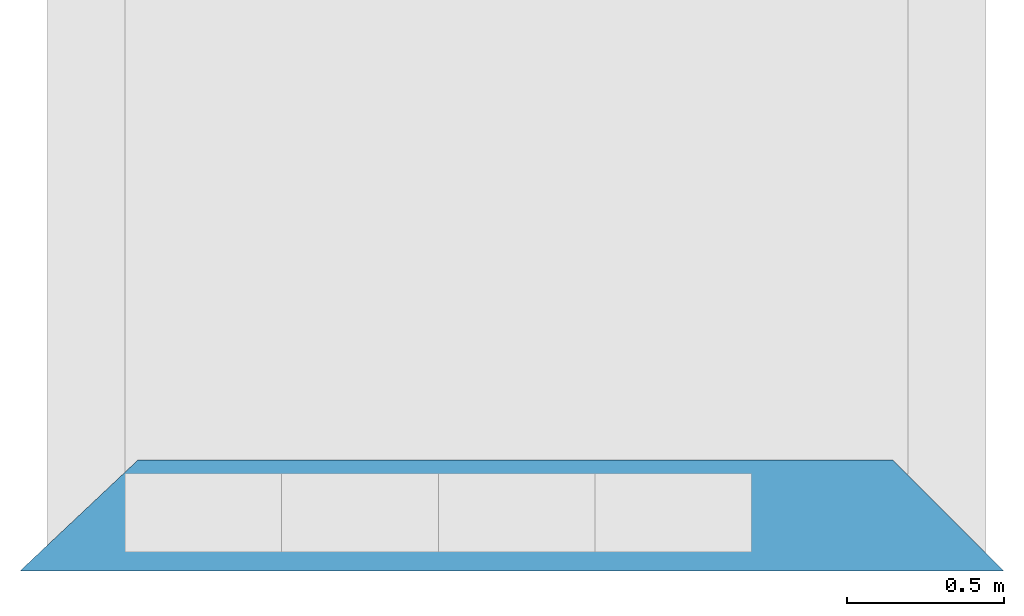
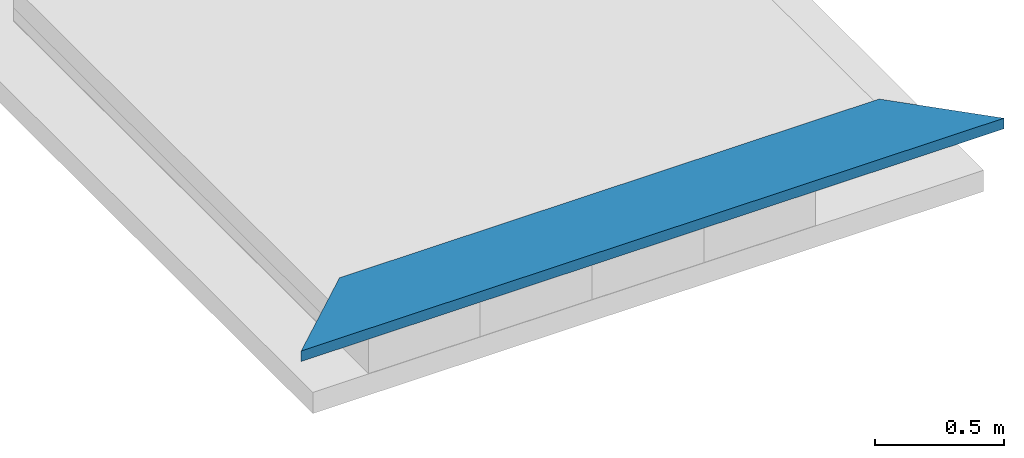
# One storey, part 3 of 3: 1 beam.
"""IFC4 building model written with IfcOpenShell, lengths in centimetres."""

import ifcopenshell
import ifcopenshell.guid

model = None  # the IFC model being written
_history = None  # IfcOwnerHistory: only IFC2X3 demands one
_inside = {}  # id of a spatial element -> (the spatial element, [elements in it])
_under = {}  # id of a project, library or spatial element -> (it, [spatial elements below it])
_declared = {}  # id of a project -> (the project, [libraries it declares])
_typed = {}  # id of a type object -> (the type object, [elements of that type])
_made_of = {}  # id of a material, layer set ... -> (it, [elements and type objects made of it])


def new_model(schema):
    """Start an empty IFC model of exactly this schema.

    Asked for "IFC4X3", IfcOpenShell would pick the latest addendum, in which some entities
    have other attributes; the version numbers below select the first issue.
    IFC2X3 requires an IfcOwnerHistory on every rooted entity: one is made here for all.
    """
    global model, _history
    if schema == "IFC4X3":
        model = ifcopenshell.file(schema_version=(4, 3, 0, 0))
    else:
        model = ifcopenshell.file(schema=schema)
    _inside.clear()
    _under.clear()
    _declared.clear()
    _typed.clear()
    _made_of.clear()
    _history = None
    if model.schema == "IFC2X3":
        org = make("IfcOrganization", Name="unknown")
        user = make(
            "IfcPersonAndOrganization",
            ThePerson=make("IfcPerson", FamilyName="unknown"),
            TheOrganization=org,
        )
        app = make(
            "IfcApplication",
            ApplicationDeveloper=org,
            Version="unknown",
            ApplicationFullName="unknown",
            ApplicationIdentifier="unknown",
        )
        _history = make(
            "IfcOwnerHistory",
            OwningUser=user,
            OwningApplication=app,
            ChangeAction="ADDED",
            CreationDate=0,
        )
    return model


def make(cls, **values):
    """One entity of the class cls with the attributes given. An attribute that is None is left unset."""
    return model.create_entity(
        cls, **{name: value for name, value in values.items() if value is not None}
    )


def entity(cls, *values):
    """Any entity or typed value of the class cls, its attributes in the order of the schema. None: left unset."""
    e = model.create_entity(cls)
    for i, value in enumerate(values):
        if value is not None:
            e[i] = value
    return e


def rooted(cls, **values):
    """An entity with a GlobalId (a new one), such as an element, a storey or a relation."""
    return make(cls, GlobalId=ifcopenshell.guid.new(), OwnerHistory=_history, **values)


def si_unit(unit_type, name, prefix=None):
    """IfcSIUnit, for example si_unit("LENGTHUNIT", "METRE", prefix="MILLI")."""
    return make("IfcSIUnit", UnitType=unit_type, Prefix=prefix, Name=name)


def converted_unit(unit_type, name, factor, base, dimensions=None, offset=None):
    """IfcConversionBasedUnit, such as the inch: factor (a typed value) times the base unit."""
    return make(
        "IfcConversionBasedUnit"
        if offset is None
        else "IfcConversionBasedUnitWithOffset",
        ConversionOffset=offset,
        Dimensions=None
        if dimensions is None
        else entity("IfcDimensionalExponents", *dimensions),
        UnitType=unit_type,
        Name=name,
        ConversionFactor=make(
            "IfcMeasureWithUnit", ValueComponent=factor, UnitComponent=base
        ),
    )


def assignment(units):
    """IfcUnitAssignment: the units of a project."""
    return None if units is None else make("IfcUnitAssignment", Units=units)


def point(xyz):
    """IfcCartesianPoint."""
    return None if xyz is None else make("IfcCartesianPoint", Coordinates=xyz)


def direction(xyz):
    """IfcDirection."""
    return None if xyz is None else make("IfcDirection", DirectionRatios=xyz)


def frame(location, z_axis=None, x_axis=None):
    """IfcAxis2Placement3D, a coordinate frame: its origin and axes. An axis left out is left unset."""
    return make(
        "IfcAxis2Placement3D",
        Location=point(location),
        Axis=direction(z_axis),
        RefDirection=direction(x_axis),
    )


def origin():
    """The frame at (0, 0, 0) with its axes left unset."""
    return frame((0.0, 0.0, 0.0))


def place(relative_to, where):
    """IfcLocalPlacement: puts the frame where relative to a parent placement (None: the world)."""
    return make(
        "IfcLocalPlacement", PlacementRelTo=relative_to, RelativePlacement=where
    )


def context(
    kind, dimensions, precision=None, world=None, true_north=None, identifier=None
):
    """IfcGeometricRepresentationContext, for example the 3D "Model" context."""
    return make(
        "IfcGeometricRepresentationContext",
        ContextIdentifier=identifier,
        ContextType=kind,
        CoordinateSpaceDimension=dimensions,
        Precision=precision,
        WorldCoordinateSystem=world,
        TrueNorth=true_north,
    )


def subcontext(parent, identifier, kind, view, scale=None):
    """IfcGeometricRepresentationSubContext, for example "Body" below "Model"."""
    return make(
        "IfcGeometricRepresentationSubContext",
        ContextIdentifier=identifier,
        ContextType=kind,
        ParentContext=parent,
        TargetScale=scale,
        TargetView=view,
    )


def project(units=None, contexts=None):
    """IfcProject with its units and contexts."""
    return rooted(
        "IfcProject",
        Name="project",
        RepresentationContexts=contexts,
        UnitsInContext=assignment(units),
    )


def spatial(cls, under=None, at=None, **own):
    """A site, building, storey or space (cls), placed at a placement, below another one or the project."""
    s = rooted(cls, ObjectPlacement=at, **own)
    if under is not None:
        _under.setdefault(under.id(), (under, []))[1].append(s)
    return s


def point_list(points):
    """IfcCartesianPointList2D or 3D."""
    cls = (
        "IfcCartesianPointList2D" if len(points[0]) == 2 else "IfcCartesianPointList3D"
    )
    return make(cls, CoordList=points)


def polygons(points, faces, closed=None, point_numbers=None):
    """IfcPolygonalFaceSet: a face is its outer loop, then its inner loops; points numbered from 1."""
    made = []
    for loops in faces:
        if len(loops) == 1:
            made.append(make("IfcIndexedPolygonalFace", CoordIndex=loops[0]))
        else:
            made.append(
                make(
                    "IfcIndexedPolygonalFaceWithVoids",
                    CoordIndex=loops[0],
                    InnerCoordIndices=loops[1:],
                )
            )
    return make(
        "IfcPolygonalFaceSet",
        Coordinates=point_list(points),
        Closed=closed,
        Faces=made,
        PnIndex=point_numbers,
    )


def shape(context_of_items, identifier, shape_type, items):
    """IfcShapeRepresentation: the items that make up one representation, for example the "Body"."""
    return make(
        "IfcShapeRepresentation",
        ContextOfItems=context_of_items,
        RepresentationIdentifier=identifier,
        RepresentationType=shape_type,
        Items=items,
    )


def source(mapping_origin, context_of_items, identifier, shape_type, items):
    """IfcRepresentationMap: a shape defined once, which mapped items show again and again."""
    return make(
        "IfcRepresentationMap",
        MappingOrigin=mapping_origin,
        MappedRepresentation=shape(context_of_items, identifier, shape_type, items),
    )


def transform(
    local_origin,
    x_axis=None,
    y_axis=None,
    z_axis=None,
    scale=None,
    scale2=None,
    scale3=None,
    uniform=True,
):
    """IfcCartesianTransformationOperator3D, or its non-uniform kind. x_axis, y_axis, z_axis: its Axis1, 2, 3."""
    if uniform:
        return make(
            "IfcCartesianTransformationOperator3D",
            Axis1=direction(x_axis),
            Axis2=direction(y_axis),
            LocalOrigin=point(local_origin),
            Scale=scale,
            Axis3=direction(z_axis),
        )
    return make(
        "IfcCartesianTransformationOperator3DnonUniform",
        Axis1=direction(x_axis),
        Axis2=direction(y_axis),
        LocalOrigin=point(local_origin),
        Scale=scale,
        Axis3=direction(z_axis),
        Scale2=scale2,
        Scale3=scale3,
    )


def mapped(mapping_source, mapping_target):
    """IfcMappedItem: shows the shape of a source again, moved by a transform."""
    return make(
        "IfcMappedItem", MappingSource=mapping_source, MappingTarget=mapping_target
    )


def material(Name=None, Category=None):
    """IfcMaterial."""
    return make("IfcMaterial", Name=Name, Category=Category)


def made_of(thing, what):
    """Note that an element or type object is made of a material, layer set ...; save() writes the relation."""
    if what is not None:
        _made_of.setdefault(what.id(), (what, []))[1].append(thing)
    return thing


def type_object(cls, material=None, **own):
    """A type object (cls), such as IfcWallType, which elements share."""
    return made_of(rooted(cls, **own), material)


def type_shapes(of_type, sources):
    """Give a type object the sources (RepresentationMaps) that its elements show as mapped items."""
    of_type.RepresentationMaps = sources


def element(
    cls,
    number,
    at=None,
    inside=None,
    cuts=None,
    type_object=None,
    material=None,
    context=None,
    identifier="Body",
    shape_type=None,
    held_by="IfcProductDefinitionShape",
    body=None,
    shapes=None,
    **own,
):
    """One element of the class cls, such as IfcWall. Its Tag is "e" and its number.

    at: its placement. inside: the storey or other place that contains it. cuts: it is an
    opening in that element (IfcRelVoidsElement). A single representation is given by context,
    identifier, shape_type and body (its items); several are given by shapes. held_by: the class
    of the entity that holds the representations. save() writes the other relations.
    """
    e = rooted(cls, Tag="e%d" % number, ObjectPlacement=at, **own)
    if body is not None:
        shapes = [shape(context, identifier, shape_type, body)]
    if shapes is not None:
        e.Representation = make(held_by, Representations=shapes)
    if inside is not None:
        _inside.setdefault(inside.id(), (inside, []))[1].append(e)
    if cuts is not None:
        rooted(
            "IfcRelVoidsElement", RelatingBuildingElement=cuts, RelatedOpeningElement=e
        )
    if type_object is not None:
        _typed.setdefault(type_object.id(), (type_object, []))[1].append(e)
    return made_of(e, material)


def aggregate(whole, parts):
    """IfcRelAggregates: a whole, such as a stair, and the parts it consists of."""
    return rooted("IfcRelAggregates", RelatingObject=whole, RelatedObjects=parts)


def save(model, path):
    """Write the relations noted so far, then the file.

    IfcRelAggregates (storeys below a building ...), IfcRelContainedInSpatialStructure (elements
    in a storey), IfcRelDefinesByType, IfcRelAssociatesMaterial and IfcRelDeclares: one each for
    every whole, place, type object, material and project.
    """
    for whole, parts in _under.values():
        aggregate(whole, parts)
    for where, things in _inside.values():
        rooted(
            "IfcRelContainedInSpatialStructure",
            RelatedElements=things,
            RelatingStructure=where,
        )
    for kind, things in _typed.values():
        rooted("IfcRelDefinesByType", RelatedObjects=things, RelatingType=kind)
    for what, things in _made_of.values():
        rooted("IfcRelAssociatesMaterial", RelatedObjects=things, RelatingMaterial=what)
    for by, libraries in _declared.values():
        rooted("IfcRelDeclares", RelatingContext=by, RelatedDefinitions=libraries)
    model.write(path)


model = new_model("IFC4")

# Units and contexts
model_context = context("Model", 3, precision=0.001, world=origin(), true_north=direction((0.0, 1.0)))
body_context = subcontext(model_context, "Body", "Model", "MODEL_VIEW")
ifc_project = project(units=[si_unit("LENGTHUNIT", "METRE", prefix="CENTI"), si_unit("AREAUNIT", "SQUARE_METRE"), si_unit("VOLUMEUNIT", "CUBIC_METRE"), converted_unit("PLANEANGLEUNIT", "DEGREE", entity("IfcPlaneAngleMeasure", 0.017453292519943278), si_unit("PLANEANGLEUNIT", "RADIAN"), dimensions=[0, 0, 0, 0, 0, 0, 0])], contexts=[model_context])

# Site, building, storey
site_placement = place(None, origin())
site = spatial("IfcSite", under=ifc_project, at=site_placement, Name="Default", CompositionType="ELEMENT")
building_placement = place(site_placement, origin())
building = spatial("IfcBuilding", under=site, at=building_placement, CompositionType="ELEMENT")
storey_placement = place(building_placement, frame((0.0, 0.0, 256.0)))
storey = spatial("IfcBuildingStorey", under=building, at=storey_placement, Name="L01__ABOVE Slab", CompositionType="ELEMENT", Elevation=255.9999999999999)

# Beam
ifc_material = material(Name="_SILL__Sill__Metal", Category="Miscellaneous")
beam_type = type_object("IfcBeamType", Name="Structural Framing : wll__PARAPET CAP__Metal__sf : Wall Coping w/ H 50mm Nose, Stamped AL Profile", PredefinedType="BEAM", material=ifc_material)
shared_shape = source(origin(), body_context, "Body", "Tessellation", [
    polygons([(2910.191626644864, 2157.2200309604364, 277.3999999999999), (2910.191626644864, 2157.2200309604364, 278.39999999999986), (3152.7289147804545, 2157.220030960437, 278.39999999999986), (3152.7289147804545, 2157.220030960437, 277.3999999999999), (2910.6164854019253, 2157.620030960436, 277.3999999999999), (3152.328914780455, 2157.6200309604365, 277.3999999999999), (2910.6164854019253, 2157.620030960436, 281.9999999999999), (3152.328914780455, 2157.6200309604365, 281.9999999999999), (2873.441344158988, 2122.6200309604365, 281.9999999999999), (3187.3289147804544, 2122.620030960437, 281.9999999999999), (2873.441344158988, 2122.6200309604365, 277.3999999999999), (3187.3289147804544, 2122.620030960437, 277.3999999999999), (2873.8662029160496, 2123.020030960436, 277.3999999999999), (3186.9289147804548, 2123.0200309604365, 277.3999999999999), (2873.8662029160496, 2123.020030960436, 278.39999999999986), (3186.9289147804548, 2123.0200309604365, 278.39999999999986), (2874.078632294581, 2123.2200309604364, 278.39999999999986), (3186.7289147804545, 2123.220030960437, 278.39999999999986), (2874.078632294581, 2123.2200309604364, 277.1999999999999), (3186.7289147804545, 2123.220030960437, 277.1999999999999), (2873.2289147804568, 2122.420030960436, 277.1999999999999), (3187.528914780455, 2122.4200309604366, 277.1999999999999), (2873.2289147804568, 2122.420030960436, 282.1999999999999), (3187.528914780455, 2122.4200309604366, 282.1999999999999), (2910.8289147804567, 2157.8200309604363, 282.1999999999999), (3152.1289147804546, 2157.8200309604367, 282.1999999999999), (2910.8289147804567, 2157.8200309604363, 277.1999999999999), (3152.1289147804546, 2157.8200309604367, 277.1999999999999), (2909.979197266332, 2157.0200309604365, 277.1999999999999), (3152.9289147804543, 2157.020030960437, 277.1999999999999), (2909.979197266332, 2157.0200309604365, 278.39999999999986), (3152.9289147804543, 2157.020030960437, 278.39999999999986)], [[[1, 2, 3, 4]], [[5, 1, 4, 6]], [[7, 5, 6, 8]], [[9, 7, 8, 10]], [[11, 9, 10, 12]], [[13, 11, 12, 14]], [[15, 13, 14, 16]], [[17, 15, 16, 18]], [[19, 17, 18, 20]], [[21, 19, 20, 22]], [[23, 21, 22, 24]], [[25, 23, 24, 26]], [[27, 25, 26, 28]], [[29, 27, 28, 30]], [[31, 29, 30, 32]], [[2, 31, 32, 3]], [[3, 32, 30, 28, 26, 24, 22, 20, 18, 16, 14, 12, 10, 8, 6, 4]], [[2, 1, 5, 7, 9, 11, 13, 15, 17, 19, 21, 23, 25, 27, 29, 31]]], closed=True),
])
type_shapes(beam_type, [shared_shape])
beam_placement = place(storey_placement, frame((0.0, 0.0, -256.0)))
element("IfcBeam", 1, at=beam_placement, inside=storey, type_object=beam_type, material=ifc_material, Name="Structural Framing : wll__PARAPET CAP__Metal__sf : Wall Coping w/ H 50mm Nose, Stamped AL Profile", PredefinedType="BEAM", context=body_context, shape_type="MappedRepresentation", body=[
    mapped(shared_shape, transform((0.0, 0.0, 0.0), scale=1.0)),
])

save(model, "model.ifc")
